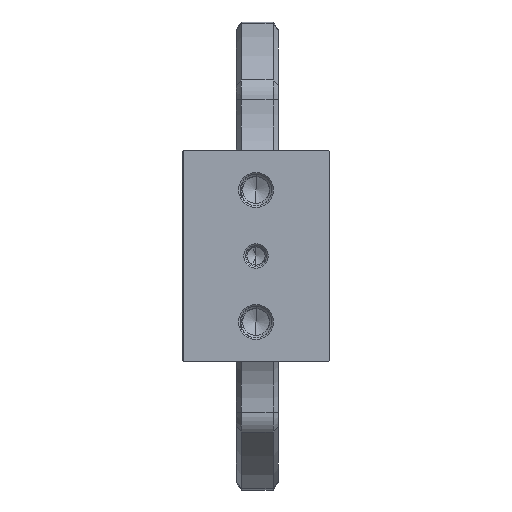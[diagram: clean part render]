
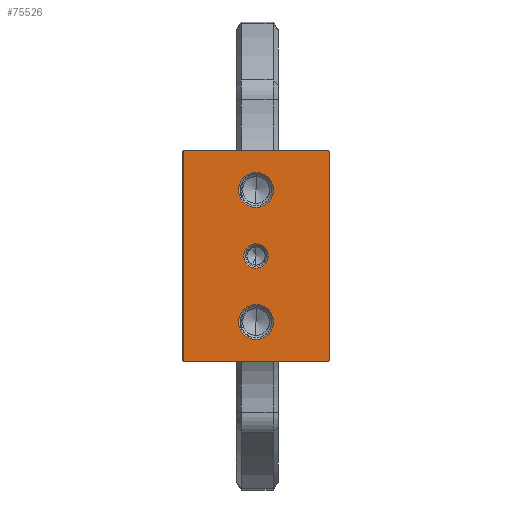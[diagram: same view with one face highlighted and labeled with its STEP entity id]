
A CAD part, left-side view. The second image highlights one B-rep face of the part: STEP entity #75526.
In plain terms, the highlighted planar face has unit normal (-1, 0, 0) as drawn and (0, 0, 1) by its records, which use the part's own axes.
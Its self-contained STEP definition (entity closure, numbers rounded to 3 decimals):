
#20449=DIRECTION('',(1.,0.,0.));
#20450=VECTOR('',#20449,39.6);
#20451=CARTESIAN_POINT('',(-19.8,14.,27.));
#20452=LINE('',#20451,#20450);
#28861=DIRECTION('',(0.,1.,0.));
#28862=VECTOR('',#28861,27.6);
#28863=CARTESIAN_POINT('',(20.,-13.8,27.));
#28864=LINE('',#28863,#28862);
#33895=DIRECTION('',(-1.,0.,0.));
#33896=VECTOR('',#33895,40.);
#33897=CARTESIAN_POINT('',(20.,-13.8,27.));
#33898=LINE('',#33897,#33896);
#33899=DIRECTION('',(0.,1.,0.));
#33900=VECTOR('',#33899,27.6);
#33901=CARTESIAN_POINT('',(-20.,-13.8,27.));
#33902=LINE('',#33901,#33900);
#33903=DIRECTION('',(-0.707,-0.707,0.));
#33904=VECTOR('',#33903,0.283);
#33905=CARTESIAN_POINT('',(-19.8,14.,27.));
#33906=LINE('',#33905,#33904);
#33907=DIRECTION('',(-0.707,0.707,0.));
#33908=VECTOR('',#33907,0.283);
#33909=CARTESIAN_POINT('',(20.,13.8,27.));
#33910=LINE('',#33909,#33908);
#33911=CARTESIAN_POINT('',(12.5,0.,27.));
#33912=DIRECTION('',(0.,0.,-1.));
#33913=DIRECTION('',(-1.,0.,0.));
#33914=AXIS2_PLACEMENT_3D('',#33911,#33912,#33913);
#33916=CARTESIAN_POINT('',(12.5,0.,27.));
#33917=DIRECTION('',(0.,0.,-1.));
#33918=DIRECTION('',(1.,0.,0.));
#33919=AXIS2_PLACEMENT_3D('',#33916,#33917,#33918);
#33921=CARTESIAN_POINT('',(-12.5,0.,27.));
#33922=DIRECTION('',(0.,0.,-1.));
#33923=DIRECTION('',(-1.,0.,0.));
#33924=AXIS2_PLACEMENT_3D('',#33921,#33922,#33923);
#33926=CARTESIAN_POINT('',(-12.5,0.,27.));
#33927=DIRECTION('',(0.,0.,-1.));
#33928=DIRECTION('',(1.,0.,0.));
#33929=AXIS2_PLACEMENT_3D('',#33926,#33927,#33928);
#33931=CARTESIAN_POINT('',(0.,0.,27.));
#33932=DIRECTION('',(0.,0.,-1.));
#33933=DIRECTION('',(-1.,0.,0.));
#33934=AXIS2_PLACEMENT_3D('',#33931,#33932,#33933);
#33936=CARTESIAN_POINT('',(0.,0.,27.));
#33937=DIRECTION('',(0.,0.,-1.));
#33938=DIRECTION('',(1.,0.,0.));
#33939=AXIS2_PLACEMENT_3D('',#33936,#33937,#33938);
#41619=CARTESIAN_POINT('',(20.,-13.8,27.));
#41620=VERTEX_POINT('',#41619);
#41623=CARTESIAN_POINT('',(-20.,-13.8,27.));
#41624=VERTEX_POINT('',#41623);
#41669=CARTESIAN_POINT('',(-19.8,14.,27.));
#41670=CARTESIAN_POINT('',(-20.,13.8,27.));
#41671=VERTEX_POINT('',#41669);
#41672=VERTEX_POINT('',#41670);
#41681=CARTESIAN_POINT('',(20.,13.8,27.));
#41682=VERTEX_POINT('',#41681);
#41683=CARTESIAN_POINT('',(19.8,14.,27.));
#41684=VERTEX_POINT('',#41683);
#41729=CARTESIAN_POINT('',(9.2,0.,27.));
#41730=CARTESIAN_POINT('',(15.8,0.,27.));
#41731=VERTEX_POINT('',#41729);
#41732=VERTEX_POINT('',#41730);
#41737=CARTESIAN_POINT('',(-15.8,0.,27.));
#41738=CARTESIAN_POINT('',(-9.2,0.,27.));
#41739=VERTEX_POINT('',#41737);
#41740=VERTEX_POINT('',#41738);
#41745=CARTESIAN_POINT('',(-2.3,0.,27.));
#41746=CARTESIAN_POINT('',(2.3,0.,27.));
#41747=VERTEX_POINT('',#41745);
#41748=VERTEX_POINT('',#41746);
#75494=CARTESIAN_POINT('',(-20.,-10.,27.));
#75495=DIRECTION('',(0.,0.,1.));
#75496=DIRECTION('',(1.,0.,0.));
#75497=AXIS2_PLACEMENT_3D('',#75494,#75495,#75496);
#75498=PLANE('',#75497);
#75499=ORIENTED_EDGE('',*,*,#75083,.T.);
#75500=ORIENTED_EDGE('',*,*,#49002,.T.);
#75501=ORIENTED_EDGE('',*,*,#75486,.F.);
#75502=ORIENTED_EDGE('',*,*,#44762,.T.);
#75504=ORIENTED_EDGE('',*,*,#75503,.F.);
#75505=ORIENTED_EDGE('',*,*,#62908,.F.);
#75506=EDGE_LOOP('',(#75499,#75500,#75501,#75502,#75504,#75505));
#75507=FACE_OUTER_BOUND('',#75506,.F.);
#75509=ORIENTED_EDGE('',*,*,#75508,.F.);
#75511=ORIENTED_EDGE('',*,*,#75510,.F.);
#75512=EDGE_LOOP('',(#75509,#75511));
#75513=FACE_BOUND('',#75512,.F.);
#75515=ORIENTED_EDGE('',*,*,#75514,.F.);
#75517=ORIENTED_EDGE('',*,*,#75516,.F.);
#75518=EDGE_LOOP('',(#75515,#75517));
#75519=FACE_BOUND('',#75518,.F.);
#75521=ORIENTED_EDGE('',*,*,#75520,.F.);
#75523=ORIENTED_EDGE('',*,*,#75522,.F.);
#75524=EDGE_LOOP('',(#75521,#75523));
#75525=FACE_BOUND('',#75524,.F.);
#75526=ADVANCED_FACE('',(#75507,#75513,#75519,#75525),#75498,.T.);
#33915=CIRCLE('',#33914,3.3);
#33920=CIRCLE('',#33919,3.3);
#33925=CIRCLE('',#33924,3.3);
#33930=CIRCLE('',#33929,3.3);
#33935=CIRCLE('',#33934,2.3);
#33940=CIRCLE('',#33939,2.3);
#44762=EDGE_CURVE('',#41671,#41684,#20452,.T.);
#49002=EDGE_CURVE('',#41624,#41672,#33902,.T.);
#62908=EDGE_CURVE('',#41620,#41682,#28864,.T.);
#75083=EDGE_CURVE('',#41620,#41624,#33898,.T.);
#75486=EDGE_CURVE('',#41671,#41672,#33906,.T.);
#75503=EDGE_CURVE('',#41682,#41684,#33910,.T.);
#75508=EDGE_CURVE('',#41731,#41732,#33915,.T.);
#75510=EDGE_CURVE('',#41732,#41731,#33920,.T.);
#75514=EDGE_CURVE('',#41739,#41740,#33925,.T.);
#75516=EDGE_CURVE('',#41740,#41739,#33930,.T.);
#75520=EDGE_CURVE('',#41747,#41748,#33935,.T.);
#75522=EDGE_CURVE('',#41748,#41747,#33940,.T.);
